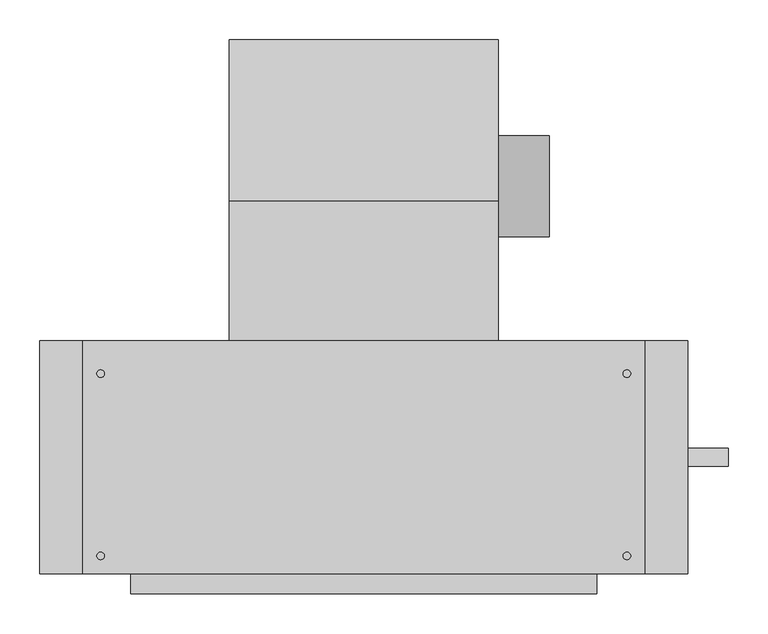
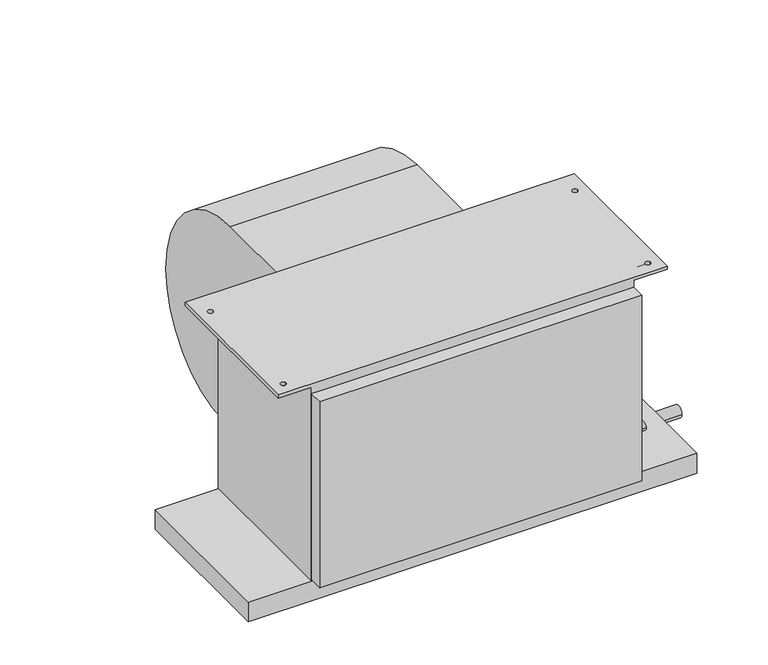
"""IFC4 building model written with IfcOpenShell, lengths in millimetres: proxy geometry, Concealed_High_Capacity_Horizontal_Fan_Coil_Unit_-_42DAA_-_CARRIER_-_4-Pipe_RH_2022 : Size 10 - 277v/60Hz/1Ph - 6/2 Coil."""

from ifc_helpers import new_model, si_unit, point, frame, frame_2d, origin, place, context, project, spatial, polyline, circle_curve, trimmed, segment, composite_curve, outline, extrude, source, transform, mapped, element, save
from ifc_brep_helpers import plane_surface, cylinder_surface, revolved_surface, advanced_brep


def mechanical_equipment_f3a8d123(model_context):
    return source(origin(), model_context, "Body", "SolidModel", [
        extrude(outline(composite_curve([segment(trimmed(circle_curve(frame_2d((117.8757598, -213.2397468)), 63.5), [point((181.3757598, -213.2397468))], [point((54.3757598, -213.2397468))], False, "CARTESIAN"), True, "CONTINUOUS"), segment(trimmed(circle_curve(frame_2d((117.8757598, -213.2397468)), 63.5), [point((54.3757598, -213.2397468))], [point((181.3757598, -213.2397468))], False, "CARTESIAN"), True, "CONTINUOUS")], self_intersect=False)), frame((448.437, 0.0, 0.0), z_axis=(1.0, 0.0, 0.0), x_axis=(0.0, 1.0, 0.0)), (0.0, 0.0, 1.0), 63.5),
        advanced_brep(
        [(110.363, 301.3905957, -228.379602), (110.363, 120.4976, -409.99664), (110.363, -35.0266, -283.45638), (110.363, -76.2, -283.45638), (110.363, -76.2, -25.4), (110.363, 98.8830093, -25.4), (448.437, 301.3905957, -228.379602), (448.437, 98.8830093, -25.4), (448.437, -76.2, -25.4), (448.437, -76.2, -283.45638), (448.437, -35.0266, -283.45638), (448.437, 120.497599, -409.9957839)],
        [
            (0, 1, circle_curve(frame((110.363, 120.31726, -228.92258), z_axis=(-1.0, 0.0, 0.0), x_axis=(0.0, -1.0, 0.0)), 181.0741498)),
            (1, 2, circle_curve(frame((110.363, 120.31726, -251.37364), z_axis=(-1.0, 0.0, 0.0), x_axis=(0.0, -1.0, 0.0)), 158.6222464)),
            (2, 3),
            (3, 4),
            (4, 5),
            (5, 0, circle_curve(frame((110.363, 97.8662, -228.92258), z_axis=(-1.0, 0.0, 0.0), x_axis=(0.0, -1.0, 0.0)), 203.52512)),
            (6, 7, circle_curve(frame((448.437, 97.8662, -228.92258), z_axis=(1.0, 0.0, 0.0), x_axis=(0.0, -1.0, 0.0)), 203.52512)),
            (7, 8),
            (8, 9),
            (9, 10),
            (10, 11, circle_curve(frame((448.437, 120.31726, -251.37364), z_axis=(1.0, 0.0, 0.0), x_axis=(0.0, -1.0, 0.0)), 158.6222464)),
            (11, 6, circle_curve(frame((448.437, 120.31726, -228.92258), z_axis=(1.0, 0.0, 0.0), x_axis=(0.0, -1.0, 0.0)), 181.0741498)),
            (0, 6),
            (11, 1),
            (10, 2),
            (9, 3),
            (8, 4),
            (7, 5),
        ],
        [
            plane_surface(frame((110.363, -60.7568898, -228.92258), z_axis=(-1.0, 0.0, 0.0), x_axis=(0.0, 0.0, 1.0))),
            plane_surface(frame((448.437, -60.7568898, -228.92258), z_axis=(1.0, 0.0, 0.0), x_axis=(0.0, 0.0, -1.0))),
            cylinder_surface(frame((448.437, 120.31726, -228.92258), z_axis=(-1.0, 0.0, 0.0), x_axis=(0.0, -1.0, 0.0)), 181.0741498),
            cylinder_surface(frame((448.437, 120.31726, -251.37364), z_axis=(-1.0, 0.0, 0.0), x_axis=(0.0, -1.0, 0.0)), 158.6222464),
            plane_surface(frame((110.363, -35.0266, -283.45638), z_axis=(0.0, 0.0, -1.0), x_axis=(1.0, 0.0, 0.0))),
            plane_surface(frame((110.363, -76.2, -283.45638), z_axis=(0.0, -1.0, 0.0), x_axis=(1.0, 0.0, 0.0))),
            plane_surface(frame((110.363, -76.2, -25.4), z_axis=(0.0, 0.0, 1.0), x_axis=(1.0, 0.0, 0.0))),
            cylinder_surface(frame((448.437, 97.8662, -228.92258), z_axis=(-1.0, 0.0, 0.0), x_axis=(0.0, -1.0, 0.0)), 203.52512),
        ],
        [
            (0, [[1, 2, 3, 4, 5, 6]]),
            (1, [[7, 8, 9, 10, 11, 12]]),
            (2, [[-1, 13, -12, 14]]),
            (3, [[-2, -14, -11, 15]]),
            (4, [[-3, -15, -10, 16]]),
            (5, [[-4, -16, -9, 17]]),
            (6, [[-5, -17, -8, 18]]),
            (7, [[-6, -18, -7, -13]]),
        ],
    ),
        extrude(outline(polyline([(685.8, -76.2), (685.8, -368.3), (-127.0, -368.3), (-127.0, -76.2), (685.8, -76.2)])), frame((0.0, 0.0, -415.925), z_axis=(0.0, 0.0, 1.0), x_axis=(1.0, 0.0, 0.0)), (0.0, 0.0, 1.0), 38.1),
        extrude(outline(polyline([(571.5, -393.7), (-12.7, -393.7), (-12.7, -368.3), (571.5, -368.3), (571.5, -393.7)])), frame((0.0, 0.0, -374.65), z_axis=(0.0, 0.0, 1.0), x_axis=(1.0, 0.0, 0.0)), (0.0, 0.0, 1.0), 355.6),
        extrude(outline(composite_curve([segment(trimmed(circle_curve(frame_2d((-222.25, -403.225)), 11.1125), [point((-233.3625, -403.225))], [point((-211.1375, -403.225))], False, "CARTESIAN"), True, "CONTINUOUS"), segment(trimmed(circle_curve(frame_2d((-222.25, -403.225)), 11.1125), [point((-211.1375, -403.225))], [point((-233.3625, -403.225))], False, "CARTESIAN"), True, "CONTINUOUS")], self_intersect=False)), frame((685.8, 0.0, 0.0), z_axis=(1.0, 0.0, 0.0), x_axis=(0.0, 1.0, 0.0)), (0.0, 0.0, 1.0), 50.8),
        extrude(outline(composite_curve([segment(trimmed(circle_curve(frame_2d((-187.325, -122.2375)), 11.1125), [point((-176.2125, -122.2375))], [point((-198.4375, -122.2375))], False, "CARTESIAN"), True, "CONTINUOUS"), segment(trimmed(circle_curve(frame_2d((-187.325, -122.2375)), 11.1125), [point((-198.4375, -122.2375))], [point((-176.2125, -122.2375))], False, "CARTESIAN"), True, "CONTINUOUS")], self_intersect=False)), frame((571.5, 0.0, 0.0), z_axis=(1.0, 0.0, 0.0), x_axis=(0.0, 1.0, 0.0)), (0.0, 0.0, 1.0), 50.8),
        extrude(outline(composite_curve([segment(trimmed(circle_curve(frame_2d((-269.875, -265.1125)), 11.1125), [point((-258.7625, -265.1125))], [point((-280.9875, -265.1125))], False, "CARTESIAN"), True, "CONTINUOUS"), segment(trimmed(circle_curve(frame_2d((-269.875, -265.1125)), 11.1125), [point((-280.9875, -265.1125))], [point((-258.7625, -265.1125))], False, "CARTESIAN"), True, "CONTINUOUS")], self_intersect=False)), frame((571.5, 0.0, 0.0), z_axis=(1.0, 0.0, 0.0), x_axis=(0.0, 1.0, 0.0)), (0.0, 0.0, 1.0), 50.8),
        extrude(outline(composite_curve([segment(trimmed(circle_curve(frame_2d((-311.15, -19.05)), 7.9375), [point((-303.2125, -19.05))], [point((-319.0875, -19.05))], False, "CARTESIAN"), True, "CONTINUOUS"), segment(trimmed(circle_curve(frame_2d((-311.15, -19.05)), 7.9375), [point((-319.0875, -19.05))], [point((-303.2125, -19.05))], False, "CARTESIAN"), True, "CONTINUOUS")], self_intersect=False)), frame((571.5, 0.0, 0.0), z_axis=(1.0, 0.0, 0.0), x_axis=(0.0, 1.0, 0.0)), (0.0, 0.0, 1.0), 50.8),
        extrude(outline(composite_curve([segment(trimmed(circle_curve(frame_2d((-311.15, -336.55)), 7.9375), [point((-303.2125, -336.55))], [point((-319.0875, -336.55))], False, "CARTESIAN"), True, "CONTINUOUS"), segment(trimmed(circle_curve(frame_2d((-311.15, -336.55)), 7.9375), [point((-319.0875, -336.55))], [point((-303.2125, -336.55))], False, "CARTESIAN"), True, "CONTINUOUS")], self_intersect=False)), frame((571.5, 0.0, 0.0), z_axis=(1.0, 0.0, 0.0), x_axis=(0.0, 1.0, 0.0)), (0.0, 0.0, 1.0), 50.8),
        advanced_brep(
        [(571.5, -76.2, -377.825), (571.5, -368.3, -377.825), (-12.7, -368.3, -377.825), (-12.7, -76.2, -377.825), (-12.7, -368.3, -6.35), (-12.7, -76.2, -6.35), (571.5, -76.2, -6.35), (571.5, -368.3, -6.35), (-73.025, -76.2, 0.0), (-73.025, -368.3, 0.0), (631.825, -368.3, 0.0), (631.825, -76.2, 0.0), (-46.0375, -117.475, 0.0), (-55.5625, -117.475, 0.0), (-46.0375, -346.075, 0.0), (-55.5625, -346.075, 0.0), (614.3625, -117.475, 0.0), (604.8375, -117.475, 0.0), (614.3625, -346.075, 0.0), (604.8375, -346.075, 0.0), (-73.025, -76.2, -6.35), (-73.025, -368.3, -6.35), (-55.5625, -117.475, -6.35), (-46.0375, -117.475, -6.35), (-55.5625, -346.075, -6.35), (-46.0375, -346.075, -6.35), (631.825, -76.2, -6.35), (631.825, -368.3, -6.35), (604.8375, -117.475, -6.35), (614.3625, -117.475, -6.35), (604.8375, -346.075, -6.35), (614.3625, -346.075, -6.35)],
        [
            (0, 1),
            (1, 2),
            (2, 3),
            (3, 0),
            (2, 4),
            (4, 5),
            (5, 3),
            (0, 6),
            (6, 7),
            (7, 1),
            (8, 9),
            (9, 10),
            (10, 11),
            (11, 8),
            (12, 13, circle_curve(frame((-50.8, -117.475, 0.0), z_axis=(0.0, 0.0, -1.0), x_axis=(1.0, 0.0, 0.0)), 4.7625)),
            (13, 12, circle_curve(frame((-50.8, -117.475, 0.0), z_axis=(0.0, 0.0, -1.0), x_axis=(1.0, 0.0, 0.0)), 4.7625)),
            (14, 15, circle_curve(frame((-50.8, -346.075, 0.0), z_axis=(0.0, 0.0, -1.0), x_axis=(1.0, 0.0, 0.0)), 4.7625)),
            (15, 14, circle_curve(frame((-50.8, -346.075, 0.0), z_axis=(0.0, 0.0, -1.0), x_axis=(1.0, 0.0, 0.0)), 4.7625)),
            (16, 17, circle_curve(frame((609.6, -117.475, 0.0), z_axis=(0.0, 0.0, -1.0), x_axis=(1.0, 0.0, 0.0)), 4.7625)),
            (17, 16, circle_curve(frame((609.6, -117.475, 0.0), z_axis=(0.0, 0.0, -1.0), x_axis=(1.0, 0.0, 0.0)), 4.7625)),
            (18, 19, circle_curve(frame((609.6, -346.075, 0.0), z_axis=(0.0, 0.0, -1.0), x_axis=(1.0, 0.0, 0.0)), 4.7625)),
            (19, 18, circle_curve(frame((609.6, -346.075, 0.0), z_axis=(0.0, 0.0, -1.0), x_axis=(1.0, 0.0, 0.0)), 4.7625)),
            (20, 5),
            (4, 21),
            (21, 20),
            (22, 23, circle_curve(frame((-50.8, -117.475, -6.35), z_axis=(0.0, 0.0, 1.0), x_axis=(1.0, 0.0, 0.0)), 4.7625)),
            (23, 22, circle_curve(frame((-50.8, -117.475, -6.35), z_axis=(0.0, 0.0, 1.0), x_axis=(1.0, 0.0, 0.0)), 4.7625)),
            (24, 25, circle_curve(frame((-50.8, -346.075, -6.35), z_axis=(0.0, 0.0, 1.0), x_axis=(1.0, 0.0, 0.0)), 4.7625)),
            (25, 24, circle_curve(frame((-50.8, -346.075, -6.35), z_axis=(0.0, 0.0, 1.0), x_axis=(1.0, 0.0, 0.0)), 4.7625)),
            (26, 27),
            (27, 7),
            (6, 26),
            (28, 29, circle_curve(frame((609.6, -117.475, -6.35), z_axis=(0.0, 0.0, 1.0), x_axis=(1.0, 0.0, 0.0)), 4.7625)),
            (29, 28, circle_curve(frame((609.6, -117.475, -6.35), z_axis=(0.0, 0.0, 1.0), x_axis=(1.0, 0.0, 0.0)), 4.7625)),
            (30, 31, circle_curve(frame((609.6, -346.075, -6.35), z_axis=(0.0, 0.0, 1.0), x_axis=(1.0, 0.0, 0.0)), 4.7625)),
            (31, 30, circle_curve(frame((609.6, -346.075, -6.35), z_axis=(0.0, 0.0, 1.0), x_axis=(1.0, 0.0, 0.0)), 4.7625)),
            (8, 20),
            (21, 9),
            (27, 10),
            (11, 26),
            (12, 23),
            (22, 13),
            (14, 25),
            (24, 15),
            (16, 29),
            (28, 17),
            (18, 31),
            (30, 19),
        ],
        [
            plane_surface(frame((-12.7, -76.2, -377.825), z_axis=(0.0, 0.0, -1.0), x_axis=(1.0, 0.0, 0.0))),
            plane_surface(frame((-12.7, -76.2, 0.0), z_axis=(-1.0, 0.0, 0.0), x_axis=(0.0, 0.0, -1.0))),
            plane_surface(frame((571.5, -368.3, 0.0), z_axis=(1.0, 0.0, 0.0), x_axis=(0.0, 0.0, -1.0))),
            plane_surface(frame((-73.025, -76.2, 0.0), z_axis=(0.0, 0.0, 1.0), x_axis=(0.0, -1.0, 0.0))),
            plane_surface(frame((-73.025, -76.2, -6.35), z_axis=(0.0, 0.0, -1.0), x_axis=(0.0, 1.0, 0.0))),
            plane_surface(frame((-73.025, -76.2, 0.0), z_axis=(-1.0, 0.0, 0.0), x_axis=(0.0, 0.0, -1.0))),
            plane_surface(frame((-73.025, -368.3, 0.0), z_axis=(0.0, -1.0, 0.0), x_axis=(0.0, 0.0, -1.0))),
            plane_surface(frame((-12.7, -76.2, 0.0), z_axis=(0.0, 1.0, 0.0), x_axis=(0.0, 0.0, -1.0))),
            plane_surface(frame((631.825, -368.3, 0.0), z_axis=(1.0, 0.0, 0.0), x_axis=(0.0, 0.0, -1.0))),
            revolved_surface(polyline([(-46.037499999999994, -117.475, 0.0), (-46.037499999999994, -117.475, -6.35)]), (-50.8, -117.475, -6.35), (0.0, 0.0, 1.0)),
            revolved_surface(polyline([(-46.037499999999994, -346.075, 0.0), (-46.037499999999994, -346.075, -6.35)]), (-50.8, -346.075, 0.0), (0.0, 0.0, 1.0)),
            revolved_surface(polyline([(614.3625000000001, -117.475, 0.0), (614.3625000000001, -117.475, -6.35)]), (609.6, -117.475, 0.0), (0.0, 0.0, 1.0)),
            revolved_surface(polyline([(614.3625000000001, -346.075, 0.0), (614.3625000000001, -346.075, -6.35)]), (609.6, -346.075, 0.0), (0.0, 0.0, 1.0)),
        ],
        [
            (0, [[1, 2, 3, 4]]),
            (1, [[-3, 5, 6, 7]]),
            (2, [[-1, 8, 9, 10]]),
            (3, [[11, 12, 13, 14], [15, 16], [17, 18], [19, 20], [21, 22]]),
            (4, [[23, -6, 24, 25], [26, 27], [28, 29]]),
            (4, [[30, 31, -9, 32], [33, 34], [35, 36]]),
            (5, [[-11, 37, -25, 38]]),
            (6, [[-12, -38, -24, -5, -2, -10, -31, 39]]),
            (7, [[-14, 40, -32, -8, -4, -7, -23, -37]]),
            (8, [[-13, -39, -30, -40]]),
            (9, [[41, -26, 42, -15]]),
            (9, [[-41, -16, -42, -27]]),
            (10, [[43, -28, 44, -17]]),
            (10, [[-43, -18, -44, -29]]),
            (11, [[45, -33, 46, -19]]),
            (11, [[-45, -20, -46, -34]]),
            (12, [[47, -35, 48, -21]]),
            (12, [[-47, -22, -48, -36]]),
        ],
    ),
    ])


if __name__ == "__main__":
    model = new_model("IFC4")
    model_context = context("Model", 3, world=origin())
    ifc_project = project(units=[si_unit("LENGTHUNIT", "METRE", prefix="MILLI")], contexts=[model_context])
    site = spatial("IfcSite", under=ifc_project)
    building = spatial("IfcBuilding", under=site)
    placement = place(None, origin())
    mechanical_equipment_shape = mechanical_equipment_f3a8d123(model_context)
    element("IfcBuildingElementProxy", 1, Name="Concealed_High_Capacity_Horizontal_Fan_Coil_Unit_-_42DAA_-_CARRIER_-_4-Pipe_RH_2022 : Size 10 - 277v/60Hz/1Ph - 6/2 Coil", ObjectType="Concealed_High_Capacity_Horizontal_Fan_Coil_Unit_-_42DAA_-_CARRIER_-_4-Pipe_RH_2022 : Size 10 - 277v/60Hz/1Ph - 6/2 Coil", at=placement, inside=building, context=model_context, shape_type="MappedRepresentation", body=[
        mapped(mechanical_equipment_shape, transform((0.0, 0.0, 0.0), x_axis=(1.0, 0.0, 0.0), y_axis=(0.0, 1.0, 0.0), z_axis=(0.0, 0.0, 1.0))),
    ])
    save(model, "model.ifc")
